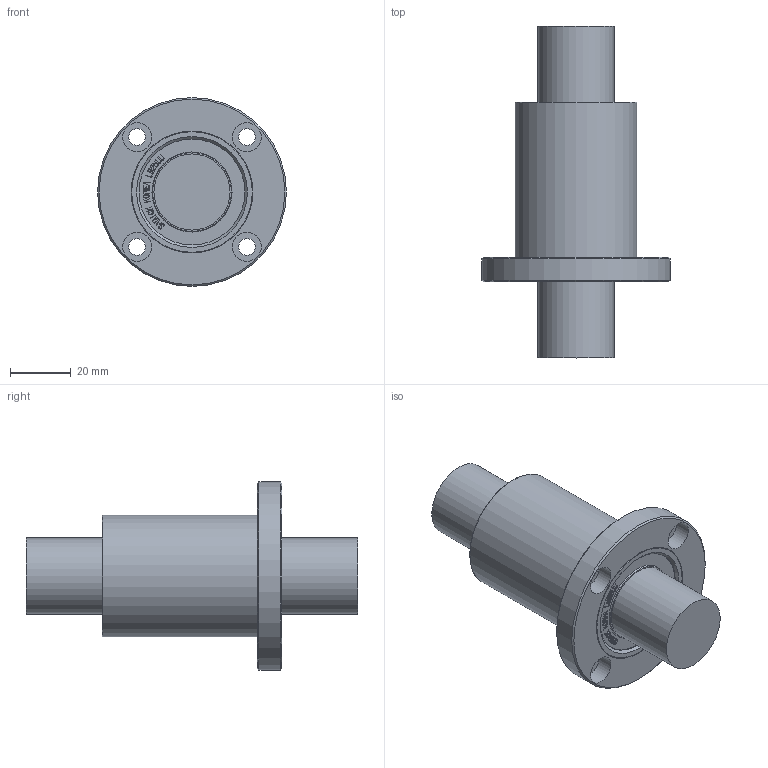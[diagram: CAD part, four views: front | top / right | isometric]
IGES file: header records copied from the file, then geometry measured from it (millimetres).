
Global section: file name: No Iges File Name specified; native system: Autodesk Inventor 2012; preprocessor: AutoDesk Inventor Iges Exporter R2012; author: user2; date: 20130206.160340; units: millimetre
Bounding box: 62 x 109 x 62 mm (x, y, z)
Volume: 110010.8 mm3; surface area: 18764.6 mm2
Topology: 1 solids, 1 shells, 869 faces, 2435 edges, 1622 vertices
Faces by surface type: bspline 612, plane 234, revolution 13, cone 4, cylinder 4, torus 2
Full cylindrical faces by diameter (mm): 25 x2, 40 x1, 62 x1
